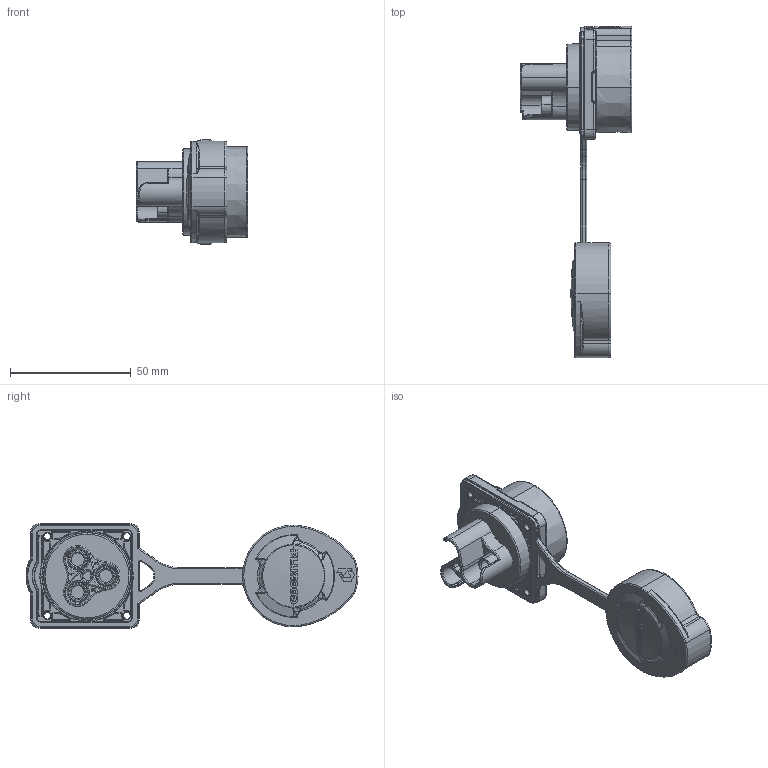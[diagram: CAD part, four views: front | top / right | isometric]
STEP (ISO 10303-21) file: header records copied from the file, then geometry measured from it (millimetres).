
FILE_DESCRIPTION (( 'STEP AP214' ), '1' );
FILE_NAME ('PLG36 3芯四孔法兰安装插座正装金属70A压接(5.0).STEP', '2026-06-25T05:48:16', ( '微软用户' ), ( '微软中国' ), 'SwSTEP 2.0', 'SolidWorks 2024', '' );
FILE_SCHEMA (( 'AUTOMOTIVE_DESIGN' ));
Length unit declared in the file: millimetre
Products named in the file (1): PLG36 3芯四孔法兰安装插座正装金属70A压接(5.0)
Bounding box: 46.2 x 137.62 x 43.5 mm (x, y, z)
Volume: 38232 mm3; surface area: 27321.8 mm2
Topology: 1 solids, 2 shells, 1917 faces, 5056 edges, 3065 vertices
Faces by surface type: plane 616, torus 486, cylinder 478, bspline 232, cone 93, sphere 12
Entity records: 66990 total; most frequent: CARTESIAN_POINT 21361, ORIENTED_EDGE 10076, DIRECTION 9276, EDGE_CURVE 5038, AXIS2_PLACEMENT_3D 3827, VERTEX_POINT 3064, CIRCLE 2141, EDGE_LOOP 2002
